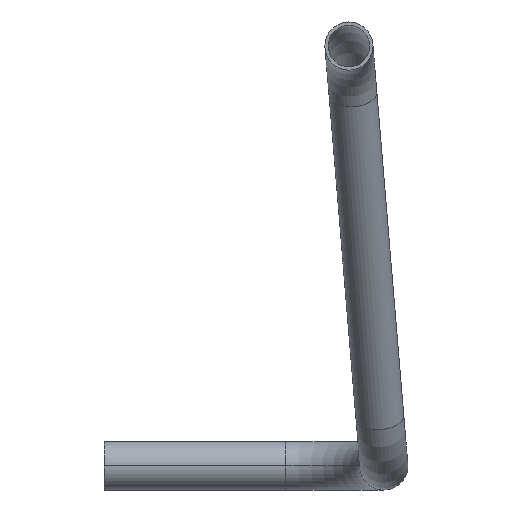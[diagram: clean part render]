
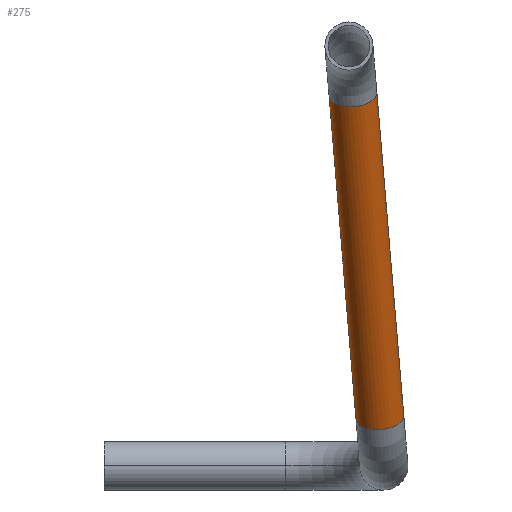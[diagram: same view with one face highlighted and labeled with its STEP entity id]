
A CAD part, left-side view. The second image highlights one B-rep face of the part: STEP entity #275.
In plain terms, the highlighted cylindrical face has radius 11 mm (diameter 22 mm), a partial arc.
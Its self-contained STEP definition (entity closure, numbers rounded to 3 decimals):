
#105=AXIS2_PLACEMENT_3D('Cylinder Axis2P3D',#102,#103,#104) ;
#254=AXIS2_PLACEMENT_3D('Circle Axis2P3D',#252,#253,$) ;
#266=AXIS2_PLACEMENT_3D('Circle Axis2P3D',#264,#265,$) ;
#80=CARTESIAN_POINT('Vertex',(-578.928,-1027.887,491.855)) ;
#87=CARTESIAN_POINT('Vertex',(-580.505,-1049.812,492.756)) ;
#102=CARTESIAN_POINT('Axis2P3D Location',(-536.375,-1045.,418.5)) ;
#107=CARTESIAN_POINT('Line Origine',(-535.587,-1034.038,418.049)) ;
#111=CARTESIAN_POINT('Vertex',(-492.246,-1040.188,344.244)) ;
#114=CARTESIAN_POINT('Line Origine',(-537.164,-1055.962,418.951)) ;
#118=CARTESIAN_POINT('Vertex',(-493.822,-1062.113,345.145)) ;
#252=CARTESIAN_POINT('Axis2P3D Location',(-579.717,-1038.85,492.305)) ;
#264=CARTESIAN_POINT('Axis2P3D Location',(-493.034,-1051.15,344.695)) ;
#103=DIRECTION('Axis2P3D Direction',(0.505,-0.072,-0.86)) ;
#104=DIRECTION('Axis2P3D XDirection',(0.072,0.997,-0.041)) ;
#108=DIRECTION('Vector Direction',(0.505,-0.072,-0.86)) ;
#115=DIRECTION('Vector Direction',(0.505,-0.072,-0.86)) ;
#253=DIRECTION('Axis2P3D Direction',(-0.505,0.072,0.86)) ;
#265=DIRECTION('Axis2P3D Direction',(0.505,-0.072,-0.86)) ;
#109=VECTOR('Line Direction',#108,1.) ;
#116=VECTOR('Line Direction',#115,1.) ;
#270=ORIENTED_EDGE('',*,*,#120,.F.) ;
#271=ORIENTED_EDGE('',*,*,#256,.T.) ;
#272=ORIENTED_EDGE('',*,*,#113,.T.) ;
#273=ORIENTED_EDGE('',*,*,#268,.F.) ;
#275=ADVANCED_FACE('( + ) PartBody',(#274),#106,.T.) ;
#255=CIRCLE('generated circle',#254,11.) ;
#267=CIRCLE('generated circle',#266,11.) ;
#106=CYLINDRICAL_SURFACE('generated cylinder',#105,11.) ;
#113=EDGE_CURVE('',#81,#112,#110,.T.) ;
#120=EDGE_CURVE('',#88,#119,#117,.T.) ;
#256=EDGE_CURVE('',#88,#81,#255,.F.) ;
#268=EDGE_CURVE('',#119,#112,#267,.T.) ;
#269=EDGE_LOOP('',(#270,#271,#272,#273)) ;
#274=FACE_OUTER_BOUND('',#269,.T.) ;
#110=LINE('Line',#107,#109) ;
#117=LINE('Line',#114,#116) ;
#81=VERTEX_POINT('',#80) ;
#88=VERTEX_POINT('',#87) ;
#112=VERTEX_POINT('',#111) ;
#119=VERTEX_POINT('',#118) ;
